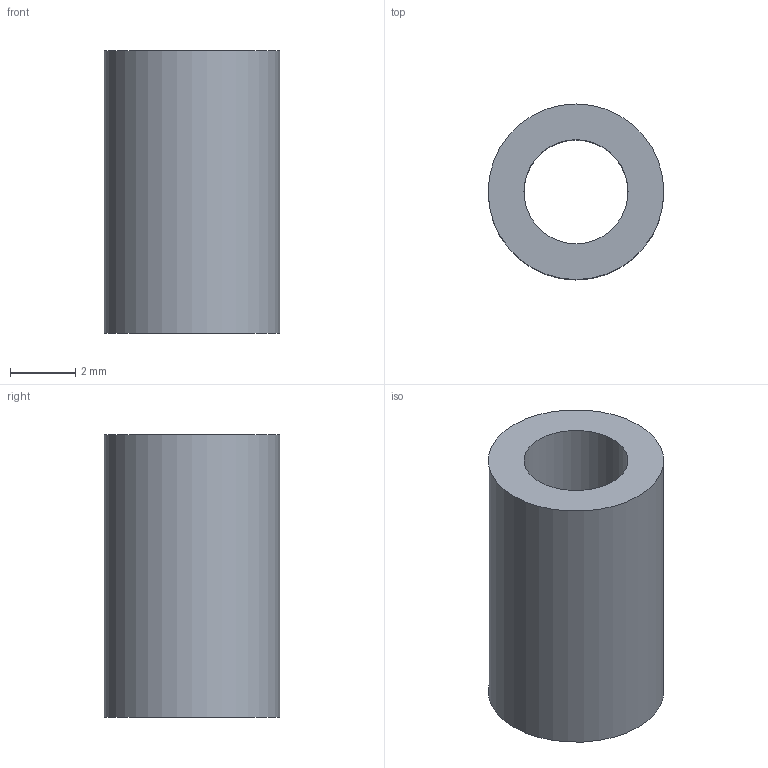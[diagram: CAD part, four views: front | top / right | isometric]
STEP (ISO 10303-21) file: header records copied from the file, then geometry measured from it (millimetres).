
FILE_DESCRIPTION(('Open CASCADE Model'),'2;1');
FILE_NAME('Open CASCADE Shape Model','2026-10-05T13:03:07',('Author'),( 'Open CASCADE'),'Open CASCADE STEP processor 7.9','Open CASCADE 7.9' ,'Unknown');
FILE_SCHEMA(('AUTOMOTIVE_DESIGN { 1 0 10303 214 1 1 1 1 }'));
Length unit declared in the file: millimetre
Products named in the file (1): Open CASCADE STEP translator 7.9 16
Bounding box: 5.4 x 5.4 x 8.7 mm (x, y, z)
Volume: 129.3 mm3; surface area: 264.8 mm2
Topology: 1 solids, 1 shells, 4 faces, 6 edges, 4 vertices
Faces by surface type: cylinder 2, plane 2
Full cylindrical faces by diameter (mm): 3.2 x1, 5.4 x1
Entity records: 186 total; most frequent: DIRECTION 32, CARTESIAN_POINT 27, ORIENTED_EDGE 12, PCURVE 12, DEFINITIONAL_REPRESENTATION 12, LINE 10, VECTOR 10, AXIS2_PLACEMENT_3D 9
